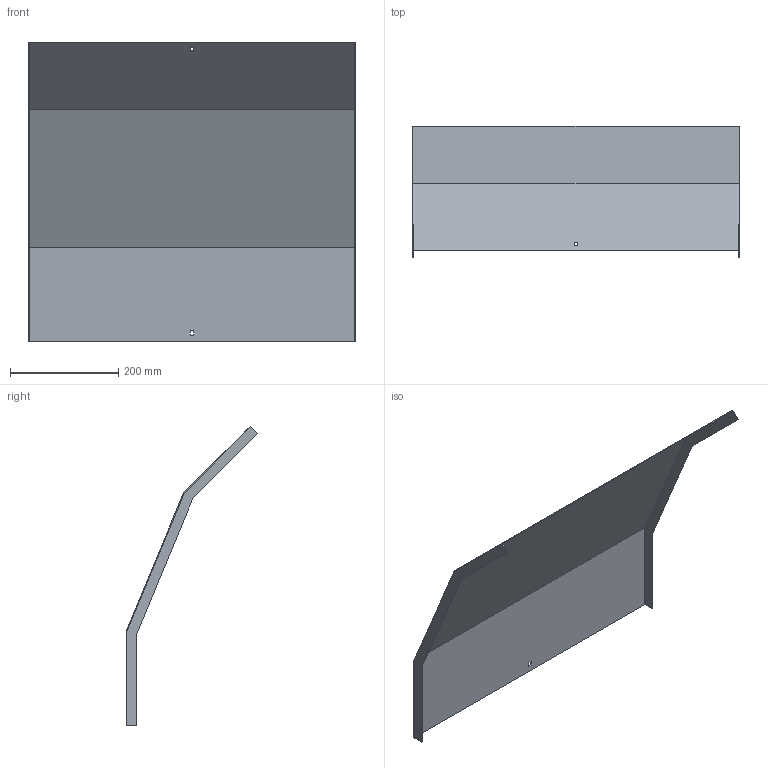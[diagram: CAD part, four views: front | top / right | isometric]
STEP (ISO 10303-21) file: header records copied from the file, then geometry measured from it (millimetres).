
FILE_DESCRIPTION (( 'STEP AP214' ), '1' );
FILE_NAME ('A2_34N3D600.step', '2025-02-21T10:34:59', ( '' ), ( '' ), 'SwSTEP 2.0', 'SolidWorks 2023', '' );
FILE_SCHEMA (( 'AUTOMOTIVE_DESIGN' ));
Length unit declared in the file: millimetre
Products named in the file (1): A2_34N3D600
Bounding box: 603 x 243.15 x 552.87 mm (x, y, z)
Volume: 598726.5 mm3; surface area: 802143.8 mm2
Topology: 1 solids, 1 shells, 26 faces, 72 edges, 48 vertices
Faces by surface type: plane 26
Entity records: 847 total; most frequent: CARTESIAN_POINT 147, ORIENTED_EDGE 144, DIRECTION 126, EDGE_CURVE 72, LINE 72, VECTOR 72, VERTEX_POINT 48, EDGE_LOOP 30
